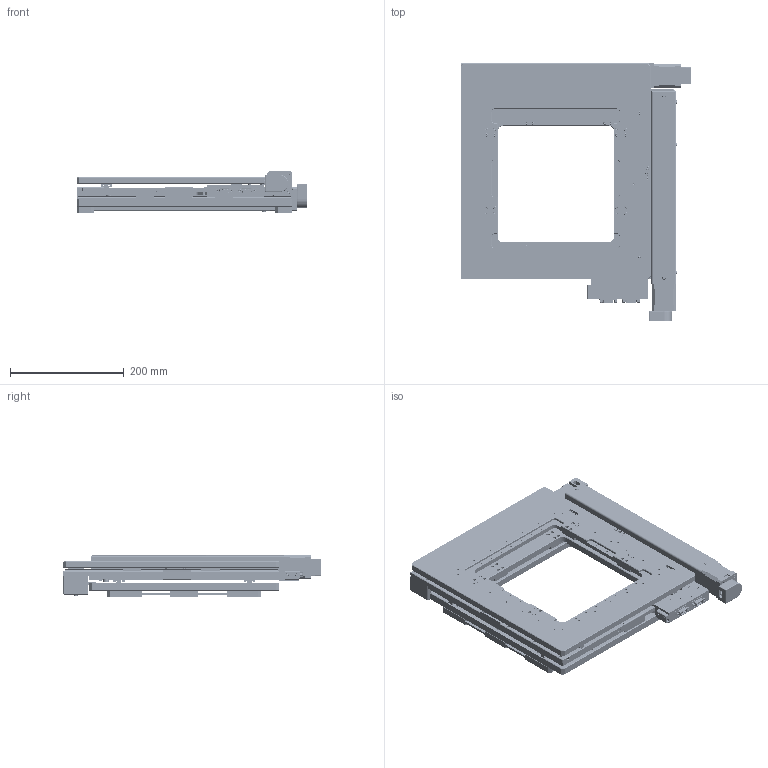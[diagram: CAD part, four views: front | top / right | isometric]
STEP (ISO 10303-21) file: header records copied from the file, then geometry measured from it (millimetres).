
FILE_DESCRIPTION(/* description */ (''),/* implementation_level */ '2;1');
FILE_NAME(/* name */ 'U:\KONSTRUKTORIAI\DOKUMENTACIJA\8\8MTF-200\STEP\8MTF-200-4247-MEn1 SB.stp',/* time_stamp */ '2019-11-28T11:17:24+02:00',/* author */ ('dsgn32'),/* organization */ (''),/* preprocessor_version */ 'ST-DEVELOPER v15.2',/* originating_system */ 'Autodesk Inventor 2014',/* authorisation */ '');
FILE_SCHEMA (('AUTOMOTIVE_DESIGN { 1 0 10303 214 3 1 1 }'));
Products named in the file (1): 8MTF-200-4247-MEn1 SB
Bounding box: 406.3 x 455.95 x 75.65 mm (x, y, z)
Volume: 4558146.1 mm3; surface area: 850200.9 mm2
Topology: 1 solids, 97 shells, 4295 faces, 10259 edges, 6673 vertices
Faces by surface type: plane 2498, cylinder 1142, cone 263, bspline 222, torus 114, sphere 56
Full cylindrical faces by diameter (mm): 0.397 x85, 0.8 x10, 1 x30, 1.567 x34, 2.013 x8, 2.459 x151, 2.5 x34, 2.9 x8, 3 x34, 3.1 x1, 3.242 x70, 3.302 x4, 3.4 x41, 3.5 x84, 4 x22, 4.2 x3, 4.5 x22, 4.917 x1, 5 x9, 5.5 x30, 6 x125, 7 x21, 8 x22, 9 x1, 10 x3, 12 x2, 23 x2, 32 x2
Entity records: 119962 total; most frequent: CARTESIAN_POINT 23802, DIRECTION 18480, ORIENTED_EDGE 17160, EDGE_CURVE 8559, AXIS2_PLACEMENT_3D 6658, EDGE_LOOP 6423, VERTEX_POINT 6203, LINE 5164
